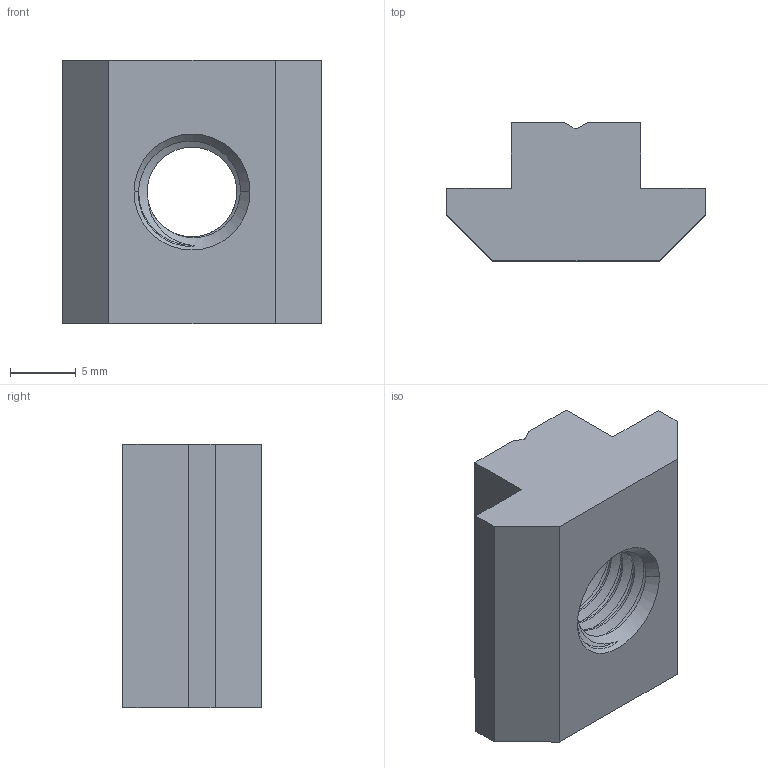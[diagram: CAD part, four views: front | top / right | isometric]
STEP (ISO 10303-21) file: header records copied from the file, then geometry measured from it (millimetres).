
FILE_DESCRIPTION (( 'STEP AP203' ), '1' );
FILE_NAME ('2125.010.004.STEP', '2023-05-24T05:25:53', ( '' ), ( '' ), 'SwSTEP 2.0', 'SolidWorks 2022', '' );
FILE_SCHEMA (( 'CONFIG_CONTROL_DESIGN' ));
Length unit declared in the file: millimetre
Products named in the file (1): 2125.010.004
Bounding box: 19.6 x 10.5 x 20 mm (x, y, z)
Volume: 2400.3 mm3; surface area: 1697.7 mm2
Topology: 1 solids, 1 shells, 42 faces, 123 edges, 82 vertices
Faces by surface type: cylinder 17, plane 17, cone 5, bspline 3
Entity records: 3563 total; most frequent: CARTESIAN_POINT 2503, ORIENTED_EDGE 246, DIRECTION 162, EDGE_CURVE 123, VERTEX_POINT 82, LINE 62, VECTOR 62, AXIS2_PLACEMENT_3D 50
